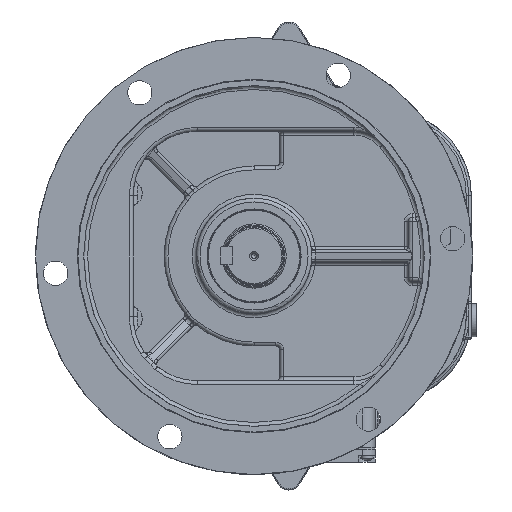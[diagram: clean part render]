
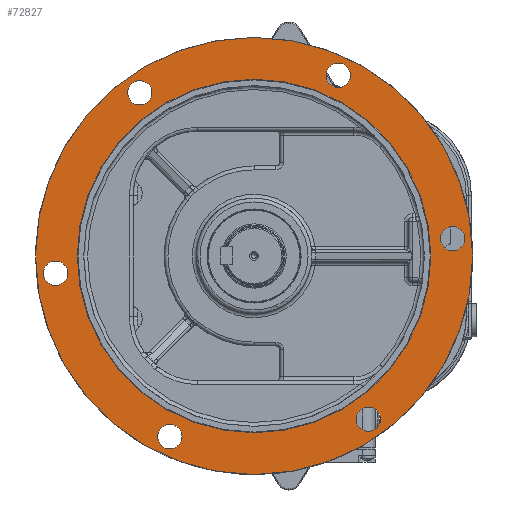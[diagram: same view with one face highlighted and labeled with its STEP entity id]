
A CAD part, left-side view. The second image highlights one B-rep face of the part: STEP entity #72827.
In plain terms, the highlighted planar face has unit normal (-1, 0, 0).
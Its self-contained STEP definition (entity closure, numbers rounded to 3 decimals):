
#3867=FACE_BOUND('',#11219,.T.);
#3868=FACE_BOUND('',#11220,.T.);
#3869=FACE_BOUND('',#11221,.T.);
#3870=FACE_BOUND('',#11222,.T.);
#3871=FACE_BOUND('',#11223,.T.);
#3872=FACE_BOUND('',#11224,.T.);
#3873=FACE_BOUND('',#11225,.T.);
#4026=PLANE('',#77557);
#6608=FACE_OUTER_BOUND('',#11218,.T.);
#11218=EDGE_LOOP('',(#48615));
#11219=EDGE_LOOP('',(#48616));
#11220=EDGE_LOOP('',(#48617));
#11221=EDGE_LOOP('',(#48618));
#11222=EDGE_LOOP('',(#48619));
#11223=EDGE_LOOP('',(#48620));
#11224=EDGE_LOOP('',(#48621));
#11225=EDGE_LOOP('',(#48622));
#16775=CIRCLE('',#77558,170.);
#16776=CIRCLE('',#77559,9.5);
#16777=CIRCLE('',#77560,9.5);
#16778=CIRCLE('',#77561,9.5);
#16779=CIRCLE('',#77562,9.5);
#16780=CIRCLE('',#77563,9.5);
#16781=CIRCLE('',#77564,9.5);
#16782=CIRCLE('',#77565,137.5);
#29952=VERTEX_POINT('',#107497);
#29953=VERTEX_POINT('',#107499);
#29954=VERTEX_POINT('',#107501);
#29955=VERTEX_POINT('',#107503);
#29956=VERTEX_POINT('',#107505);
#29957=VERTEX_POINT('',#107507);
#29958=VERTEX_POINT('',#107509);
#29959=VERTEX_POINT('',#107511);
#37013=EDGE_CURVE('',#29952,#29952,#16775,.T.);
#37014=EDGE_CURVE('',#29953,#29953,#16776,.T.);
#37015=EDGE_CURVE('',#29954,#29954,#16777,.T.);
#37016=EDGE_CURVE('',#29955,#29955,#16778,.T.);
#37017=EDGE_CURVE('',#29956,#29956,#16779,.T.);
#37018=EDGE_CURVE('',#29957,#29957,#16780,.T.);
#37019=EDGE_CURVE('',#29958,#29958,#16781,.T.);
#37020=EDGE_CURVE('',#29959,#29959,#16782,.T.);
#48615=ORIENTED_EDGE('',*,*,#37013,.T.);
#48616=ORIENTED_EDGE('',*,*,#37014,.T.);
#48617=ORIENTED_EDGE('',*,*,#37015,.T.);
#48618=ORIENTED_EDGE('',*,*,#37016,.T.);
#48619=ORIENTED_EDGE('',*,*,#37017,.T.);
#48620=ORIENTED_EDGE('',*,*,#37018,.T.);
#48621=ORIENTED_EDGE('',*,*,#37019,.T.);
#48622=ORIENTED_EDGE('',*,*,#37020,.T.);
#72827=ADVANCED_FACE('',(#6608,#3867,#3868,#3869,#3870,#3871,#3872,#3873),
#4026,.F.);
#77557=AXIS2_PLACEMENT_3D('',#107496,#86101,#86102);
#77558=AXIS2_PLACEMENT_3D('',#107498,#86103,#86104);
#77559=AXIS2_PLACEMENT_3D('',#107500,#86105,#86106);
#77560=AXIS2_PLACEMENT_3D('',#107502,#86107,#86108);
#77561=AXIS2_PLACEMENT_3D('',#107504,#86109,#86110);
#77562=AXIS2_PLACEMENT_3D('',#107506,#86111,#86112);
#77563=AXIS2_PLACEMENT_3D('',#107508,#86113,#86114);
#77564=AXIS2_PLACEMENT_3D('',#107510,#86115,#86116);
#77565=AXIS2_PLACEMENT_3D('',#107512,#86117,#86118);
#86101=DIRECTION('center_axis',(1.,0.,0.));
#86102=DIRECTION('ref_axis',(0.,0.,-1.));
#86103=DIRECTION('center_axis',(-1.,0.,0.));
#86104=DIRECTION('ref_axis',(0.,0.,-1.));
#86105=DIRECTION('center_axis',(1.,0.,0.));
#86106=DIRECTION('ref_axis',(0.,-0.866,0.5));
#86107=DIRECTION('center_axis',(1.,0.,0.));
#86108=DIRECTION('ref_axis',(0.,-0.866,-0.5));
#86109=DIRECTION('center_axis',(1.,0.,0.));
#86110=DIRECTION('ref_axis',(0.,0.,-1.));
#86111=DIRECTION('center_axis',(1.,0.,0.));
#86112=DIRECTION('ref_axis',(0.,0.866,-0.5));
#86113=DIRECTION('center_axis',(1.,0.,0.));
#86114=DIRECTION('ref_axis',(0.,0.866,0.5));
#86115=DIRECTION('center_axis',(1.,0.,0.));
#86116=DIRECTION('ref_axis',(0.,0.,1.));
#86117=DIRECTION('center_axis',(1.,0.,0.));
#86118=DIRECTION('ref_axis',(0.,0.,-1.));
#107496=CARTESIAN_POINT('Origin',(-157.,0.,0.));
#107497=CARTESIAN_POINT('',(-157.,0.,170.));
#107498=CARTESIAN_POINT('Origin',(-157.,0.,0.));
#107499=CARTESIAN_POINT('',(-157.,73.733,-145.228));
#107500=CARTESIAN_POINT('Origin',(-157.,65.506,-140.478));
#107501=CARTESIAN_POINT('',(-157.,162.637,-8.759));
#107502=CARTESIAN_POINT('Origin',(-157.,154.41,-13.509));
#107503=CARTESIAN_POINT('',(-157.,88.904,136.469));
#107504=CARTESIAN_POINT('Origin',(-157.,88.904,126.969));
#107505=CARTESIAN_POINT('',(-157.,-73.733,145.228));
#107506=CARTESIAN_POINT('Origin',(-157.,-65.506,140.478));
#107507=CARTESIAN_POINT('',(-157.,-162.637,8.759));
#107508=CARTESIAN_POINT('Origin',(-157.,-154.41,13.509));
#107509=CARTESIAN_POINT('',(-157.,-88.904,-136.469));
#107510=CARTESIAN_POINT('Origin',(-157.,-88.904,-126.969));
#107511=CARTESIAN_POINT('',(-157.,0.,137.5));
#107512=CARTESIAN_POINT('Origin',(-157.,0.,0.));
